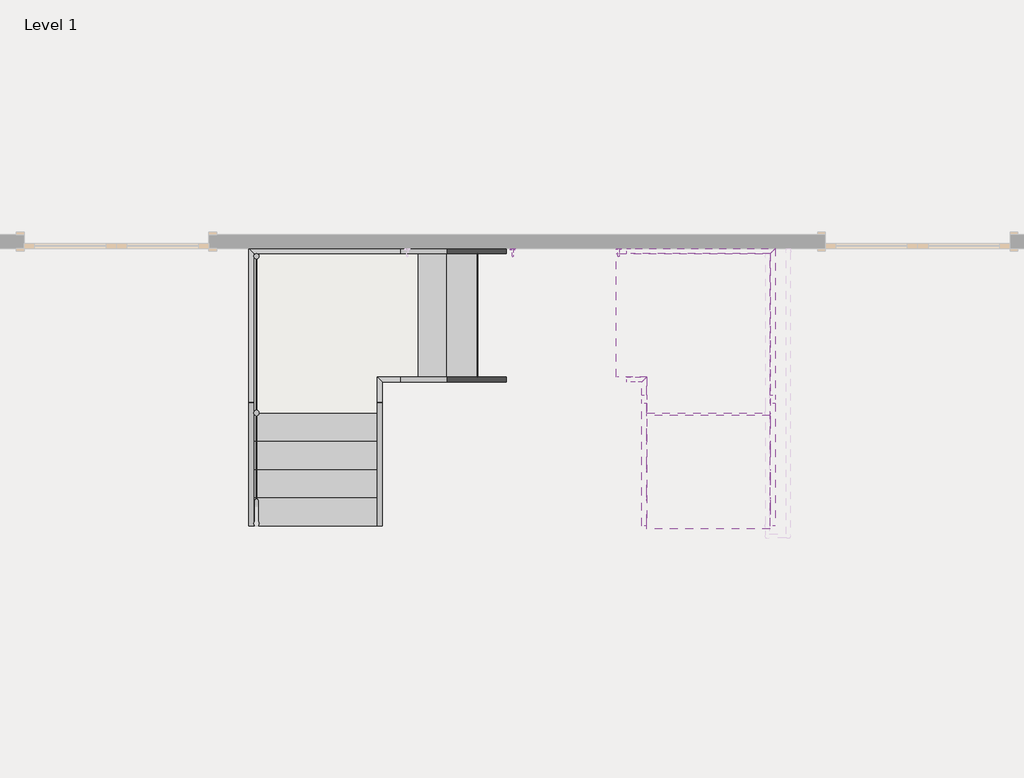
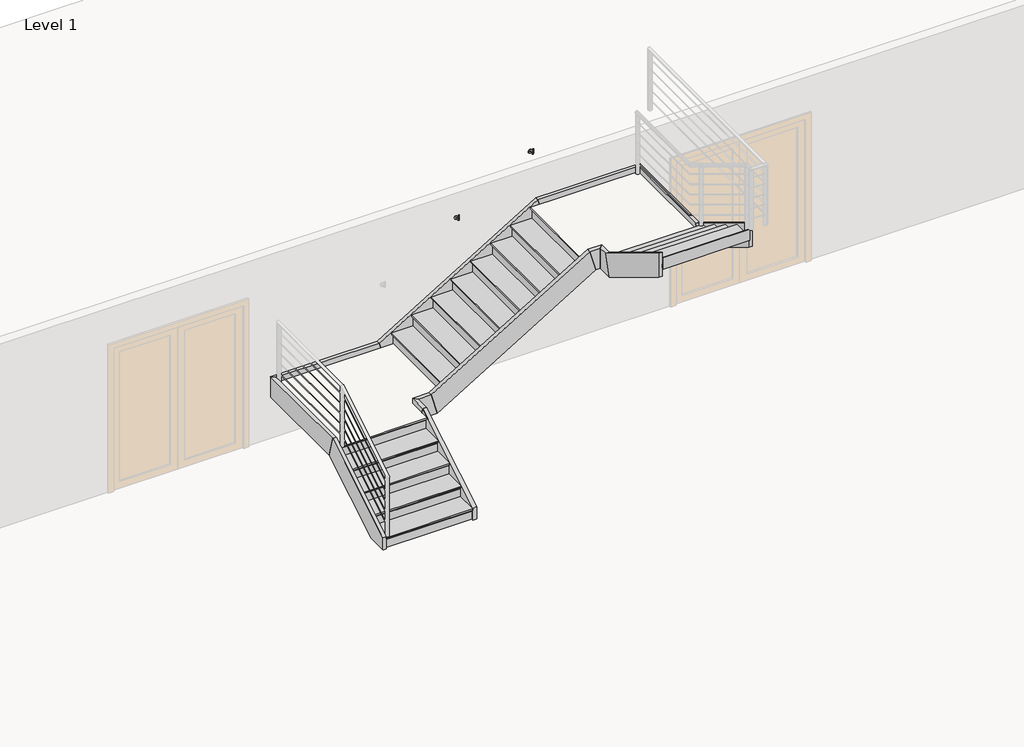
# One storey, part 7 of 7: 14 members, 3 stair flights, 2 proxies, 2 slabs.
"""IFC4 building model written with IfcOpenShell, lengths in millimetres."""

import ifcopenshell
import ifcopenshell.guid

model = None  # the IFC model being written
_history = None  # IfcOwnerHistory: only IFC2X3 demands one
_inside = {}  # id of a spatial element -> (the spatial element, [elements in it])
_under = {}  # id of a project, library or spatial element -> (it, [spatial elements below it])
_declared = {}  # id of a project -> (the project, [libraries it declares])
_typed = {}  # id of a type object -> (the type object, [elements of that type])
_made_of = {}  # id of a material, layer set ... -> (it, [elements and type objects made of it])


def new_model(schema):
    """Start an empty IFC model of exactly this schema.

    Asked for "IFC4X3", IfcOpenShell would pick the latest addendum, in which some entities
    have other attributes; the version numbers below select the first issue.
    IFC2X3 requires an IfcOwnerHistory on every rooted entity: one is made here for all.
    """
    global model, _history
    if schema == "IFC4X3":
        model = ifcopenshell.file(schema_version=(4, 3, 0, 0))
    else:
        model = ifcopenshell.file(schema=schema)
    _inside.clear()
    _under.clear()
    _declared.clear()
    _typed.clear()
    _made_of.clear()
    _history = None
    if model.schema == "IFC2X3":
        org = make("IfcOrganization", Name="unknown")
        user = make(
            "IfcPersonAndOrganization",
            ThePerson=make("IfcPerson", FamilyName="unknown"),
            TheOrganization=org,
        )
        app = make(
            "IfcApplication",
            ApplicationDeveloper=org,
            Version="unknown",
            ApplicationFullName="unknown",
            ApplicationIdentifier="unknown",
        )
        _history = make(
            "IfcOwnerHistory",
            OwningUser=user,
            OwningApplication=app,
            ChangeAction="ADDED",
            CreationDate=0,
        )
    return model


def make(cls, **values):
    """One entity of the class cls with the attributes given. An attribute that is None is left unset."""
    return model.create_entity(
        cls, **{name: value for name, value in values.items() if value is not None}
    )


def rooted(cls, **values):
    """An entity with a GlobalId (a new one), such as an element, a storey or a relation."""
    return make(cls, GlobalId=ifcopenshell.guid.new(), OwnerHistory=_history, **values)


def si_unit(unit_type, name, prefix=None):
    """IfcSIUnit, for example si_unit("LENGTHUNIT", "METRE", prefix="MILLI")."""
    return make("IfcSIUnit", UnitType=unit_type, Prefix=prefix, Name=name)


def assignment(units):
    """IfcUnitAssignment: the units of a project."""
    return None if units is None else make("IfcUnitAssignment", Units=units)


def point(xyz):
    """IfcCartesianPoint."""
    return None if xyz is None else make("IfcCartesianPoint", Coordinates=xyz)


def direction(xyz):
    """IfcDirection."""
    return None if xyz is None else make("IfcDirection", DirectionRatios=xyz)


def frame(location, z_axis=None, x_axis=None):
    """IfcAxis2Placement3D, a coordinate frame: its origin and axes. An axis left out is left unset."""
    return make(
        "IfcAxis2Placement3D",
        Location=point(location),
        Axis=direction(z_axis),
        RefDirection=direction(x_axis),
    )


def frame_2d(location, x_axis=None):
    """IfcAxis2Placement2D, a coordinate frame in the plane: its origin and x axis."""
    return make(
        "IfcAxis2Placement2D", Location=point(location), RefDirection=direction(x_axis)
    )


def origin():
    """The frame at (0, 0, 0) with its axes left unset."""
    return frame((0.0, 0.0, 0.0))


def origin_with_axes():
    """The frame at (0, 0, 0) with the z axis (0, 0, 1) and the x axis (1, 0, 0) written out."""
    return frame((0.0, 0.0, 0.0), z_axis=(0.0, 0.0, 1.0), x_axis=(1.0, 0.0, 0.0))


def place(relative_to, where):
    """IfcLocalPlacement: puts the frame where relative to a parent placement (None: the world)."""
    return make(
        "IfcLocalPlacement", PlacementRelTo=relative_to, RelativePlacement=where
    )


def context(
    kind, dimensions, precision=None, world=None, true_north=None, identifier=None
):
    """IfcGeometricRepresentationContext, for example the 3D "Model" context."""
    return make(
        "IfcGeometricRepresentationContext",
        ContextIdentifier=identifier,
        ContextType=kind,
        CoordinateSpaceDimension=dimensions,
        Precision=precision,
        WorldCoordinateSystem=world,
        TrueNorth=true_north,
    )


def project(units=None, contexts=None):
    """IfcProject with its units and contexts."""
    return rooted(
        "IfcProject",
        Name="project",
        RepresentationContexts=contexts,
        UnitsInContext=assignment(units),
    )


def spatial(cls, under=None, at=None, **own):
    """A site, building, storey or space (cls), placed at a placement, below another one or the project."""
    s = rooted(cls, ObjectPlacement=at, **own)
    if under is not None:
        _under.setdefault(under.id(), (under, []))[1].append(s)
    return s


def polyline(points):
    """IfcPolyline through the points."""
    return make("IfcPolyline", Points=[point(p) for p in points])


def circle_curve(where, radius):
    """IfcCircle in the frame where."""
    return make("IfcCircle", Position=where, Radius=radius)


def ellipse_curve(where, semi_axis1, semi_axis2):
    """IfcEllipse in the frame where."""
    return make(
        "IfcEllipse", Position=where, SemiAxis1=semi_axis1, SemiAxis2=semi_axis2
    )


def trimmed(basis, trim1, trim2, sense, master):
    """IfcTrimmedCurve: the piece of a basis curve between two trims."""
    return make(
        "IfcTrimmedCurve",
        BasisCurve=basis,
        Trim1=trim1,
        Trim2=trim2,
        SenseAgreement=sense,
        MasterRepresentation=master,
    )


def segment(curve, same_sense, transition):
    """IfcCompositeCurveSegment."""
    return make(
        "IfcCompositeCurveSegment",
        Transition=transition,
        SameSense=same_sense,
        ParentCurve=curve,
    )


def composite_curve(segments, self_intersect=None):
    """IfcCompositeCurve: segments joined end to end."""
    return make("IfcCompositeCurve", Segments=segments, SelfIntersect=self_intersect)


def outline(outer, holes=None, kind="AREA"):
    """IfcArbitraryClosedProfileDef: a profile drawn as a closed curve; with holes, ...WithVoids."""
    if holes is None:
        return make("IfcArbitraryClosedProfileDef", ProfileType=kind, OuterCurve=outer)
    return make(
        "IfcArbitraryProfileDefWithVoids",
        ProfileType=kind,
        OuterCurve=outer,
        InnerCurves=holes,
    )


def extrude(swept, where, along, depth):
    """IfcExtrudedAreaSolid: the profile swept, set in the frame where, extruded along a direction by depth."""
    return make(
        "IfcExtrudedAreaSolid",
        SweptArea=swept,
        Position=where,
        ExtrudedDirection=direction(along),
        Depth=depth,
    )


def faces_of(points, faces, orient=None, outer=None):
    """IfcFace entities. A face is a list of loops; a loop is a list of indices into points, from 0.

    orient and outer hold one flag for each loop. By default every Orientation is true, the
    first loop of a face is its IfcFaceOuterBound and the others are IfcFaceBound.
    """
    made = []
    for i, loops in enumerate(faces):
        bounds = []
        for j, loop in enumerate(loops):
            is_outer = j == 0 if outer is None else outer[i][j]
            bounds.append(
                make(
                    "IfcFaceOuterBound" if is_outer else "IfcFaceBound",
                    Bound=make("IfcPolyLoop", Polygon=[points[k] for k in loop]),
                    Orientation=True if orient is None else orient[i][j],
                )
            )
        made.append(make("IfcFace", Bounds=bounds))
    return made


def faceted_brep(points, faces, orient=None, outer=None, voids=None):
    """IfcFacetedBrep: a solid bounded by flat faces; with voids (closed shells), ...WithVoids."""
    shared = [point(p) for p in points]
    hull = make("IfcClosedShell", CfsFaces=faces_of(shared, faces, orient, outer))
    if voids is None:
        return make("IfcFacetedBrep", Outer=hull)
    return make(
        "IfcFacetedBrepWithVoids",
        Outer=hull,
        Voids=[
            make(cls, CfsFaces=faces_of(shared, fs, o, b)) for cls, fs, o, b in voids
        ],
    )


def shape(context_of_items, identifier, shape_type, items):
    """IfcShapeRepresentation: the items that make up one representation, for example the "Body"."""
    return make(
        "IfcShapeRepresentation",
        ContextOfItems=context_of_items,
        RepresentationIdentifier=identifier,
        RepresentationType=shape_type,
        Items=items,
    )


def source(mapping_origin, context_of_items, identifier, shape_type, items):
    """IfcRepresentationMap: a shape defined once, which mapped items show again and again."""
    return make(
        "IfcRepresentationMap",
        MappingOrigin=mapping_origin,
        MappedRepresentation=shape(context_of_items, identifier, shape_type, items),
    )


def transform(
    local_origin,
    x_axis=None,
    y_axis=None,
    z_axis=None,
    scale=None,
    scale2=None,
    scale3=None,
    uniform=True,
):
    """IfcCartesianTransformationOperator3D, or its non-uniform kind. x_axis, y_axis, z_axis: its Axis1, 2, 3."""
    if uniform:
        return make(
            "IfcCartesianTransformationOperator3D",
            Axis1=direction(x_axis),
            Axis2=direction(y_axis),
            LocalOrigin=point(local_origin),
            Scale=scale,
            Axis3=direction(z_axis),
        )
    return make(
        "IfcCartesianTransformationOperator3DnonUniform",
        Axis1=direction(x_axis),
        Axis2=direction(y_axis),
        LocalOrigin=point(local_origin),
        Scale=scale,
        Axis3=direction(z_axis),
        Scale2=scale2,
        Scale3=scale3,
    )


def mapped(mapping_source, mapping_target):
    """IfcMappedItem: shows the shape of a source again, moved by a transform."""
    return make(
        "IfcMappedItem", MappingSource=mapping_source, MappingTarget=mapping_target
    )


def made_of(thing, what):
    """Note that an element or type object is made of a material, layer set ...; save() writes the relation."""
    if what is not None:
        _made_of.setdefault(what.id(), (what, []))[1].append(thing)
    return thing


def element(
    cls,
    number,
    at=None,
    inside=None,
    cuts=None,
    type_object=None,
    material=None,
    context=None,
    identifier="Body",
    shape_type=None,
    held_by="IfcProductDefinitionShape",
    body=None,
    shapes=None,
    **own,
):
    """One element of the class cls, such as IfcWall. Its Tag is "e" and its number.

    at: its placement. inside: the storey or other place that contains it. cuts: it is an
    opening in that element (IfcRelVoidsElement). A single representation is given by context,
    identifier, shape_type and body (its items); several are given by shapes. held_by: the class
    of the entity that holds the representations. save() writes the other relations.
    """
    e = rooted(cls, Tag="e%d" % number, ObjectPlacement=at, **own)
    if body is not None:
        shapes = [shape(context, identifier, shape_type, body)]
    if shapes is not None:
        e.Representation = make(held_by, Representations=shapes)
    if inside is not None:
        _inside.setdefault(inside.id(), (inside, []))[1].append(e)
    if cuts is not None:
        rooted(
            "IfcRelVoidsElement", RelatingBuildingElement=cuts, RelatedOpeningElement=e
        )
    if type_object is not None:
        _typed.setdefault(type_object.id(), (type_object, []))[1].append(e)
    return made_of(e, material)


def aggregate(whole, parts):
    """IfcRelAggregates: a whole, such as a stair, and the parts it consists of."""
    return rooted("IfcRelAggregates", RelatingObject=whole, RelatedObjects=parts)


def save(model, path):
    """Write the relations noted so far, then the file.

    IfcRelAggregates (storeys below a building ...), IfcRelContainedInSpatialStructure (elements
    in a storey), IfcRelDefinesByType, IfcRelAssociatesMaterial and IfcRelDeclares: one each for
    every whole, place, type object, material and project.
    """
    for whole, parts in _under.values():
        aggregate(whole, parts)
    for where, things in _inside.values():
        rooted(
            "IfcRelContainedInSpatialStructure",
            RelatedElements=things,
            RelatingStructure=where,
        )
    for kind, things in _typed.values():
        rooted("IfcRelDefinesByType", RelatedObjects=things, RelatingType=kind)
    for what, things in _made_of.values():
        rooted("IfcRelAssociatesMaterial", RelatedObjects=things, RelatingMaterial=what)
    for by, libraries in _declared.values():
        rooted("IfcRelDeclares", RelatingContext=by, RelatedDefinitions=libraries)
    model.write(path)


def plane_surface(at):
    """IfcPlane: the flat surface through the origin of the frame at, square to its z axis."""
    return make("IfcPlane", Position=at)


def cylinder_surface(at, radius):
    """IfcCylindricalSurface: all points at the distance radius from the z axis of the frame at."""
    return make("IfcCylindricalSurface", Position=at, Radius=radius)


def revolved_surface(curve, axis_point, axis_direction):
    """IfcSurfaceOfRevolution: the curve turned about the line through axis_point along axis_direction."""
    return make(
        "IfcSurfaceOfRevolution",
        SweptCurve=make("IfcArbitraryOpenProfileDef", ProfileType="CURVE", Curve=curve),
        AxisPosition=make("IfcAxis1Placement", Location=point(axis_point), Axis=direction(axis_direction)),
    )


def advanced_brep(points, edges, surfaces, faces):
    """IfcAdvancedBrep: a solid bounded by faces that lie on surfaces and meet in shared edges.

    An edge is (start, end): straight between two places in points (the first is 0);
    or (start, end, curve); or (start, end, curve, False) where it runs against its curve.
    A face is (place in surfaces, loops), or (place, loops, False) where it looks against
    its surface's normal. A loop lists edges by number (the first is 1), with a minus sign
    where the edge is run from its end to its start. The first loop is the outer one.
    """
    corners = [point(p) for p in points]
    vertices = [make("IfcVertexPoint", VertexGeometry=c) for c in corners]
    made = []
    for start, end, *more in edges:
        made.append(
            make(
                "IfcEdgeCurve",
                EdgeStart=vertices[start],
                EdgeEnd=vertices[end],
                EdgeGeometry=more[0] if more else make("IfcPolyline", Points=[corners[start], corners[end]]),
                SameSense=more[1] if len(more) > 1 else True,
            )
        )
    hull = []
    for where, loops, *sense in faces:
        bounds = []
        for j, loop in enumerate(loops):
            ring = [make("IfcOrientedEdge", EdgeElement=made[abs(k) - 1], Orientation=k > 0) for k in loop]
            bounds.append(
                make(
                    "IfcFaceOuterBound" if j == 0 else "IfcFaceBound",
                    Bound=make("IfcEdgeLoop", EdgeList=ring),
                    Orientation=True,
                )
            )
        hull.append(make("IfcAdvancedFace", Bounds=bounds, FaceSurface=surfaces[where], SameSense=sense[0] if sense else True))
    return make("IfcAdvancedBrep", Outer=make("IfcClosedShell", CfsFaces=hull))


def support_metal_circular_support_metal_circular_6fb01533(model_context):
    return source(origin(), model_context, "Body", "SolidModel", [
        advanced_brep(
        [(0.0, 63.5, -69.85), (0.0, 63.5, -82.55), (0.0, 12.7, -69.85), (0.0, 12.7, -82.55), (0.0, -6.35, -63.5), (0.0, 6.35, -63.5), (0.0, 6.35, 0.0), (0.0, -6.35, 0.0)],
        [
            (0, 1, circle_curve(frame((0.0, 63.5, -76.2), z_axis=(0.0, 1.0, 0.0), x_axis=(0.0, 0.0, -1.0)), 6.35)),
            (1, 0, circle_curve(frame((0.0, 63.5, -76.2), z_axis=(0.0, 1.0, 0.0), x_axis=(0.0, 0.0, -1.0)), 6.35)),
            (0, 2),
            (2, 3, circle_curve(frame((0.0, 12.7, -76.2), z_axis=(0.0, 1.0, 0.0), x_axis=(0.0, 0.0, -1.0)), 6.35)),
            (3, 1),
            (3, 2, circle_curve(frame((0.0, 12.7, -76.2), z_axis=(0.0, 1.0, 0.0), x_axis=(0.0, 0.0, -1.0)), 6.35)),
            (4, 3, circle_curve(frame((0.0, 12.7, -63.5), z_axis=(1.0, 0.0, 0.0), x_axis=(0.0, 0.0, -1.0)), 19.05)),
            (2, 5, circle_curve(frame((0.0, 12.7, -63.5), z_axis=(-1.0, 0.0, 0.0), x_axis=(0.0, 0.0, -1.0)), 6.35)),
            (5, 4, circle_curve(frame((0.0, 0.0, -63.5), z_axis=(0.0, 0.0, -1.0), x_axis=(0.0, -1.0, 0.0)), 6.35)),
            (4, 5, circle_curve(frame((0.0, 0.0, -63.5), z_axis=(0.0, 0.0, -1.0), x_axis=(0.0, -1.0, 0.0)), 6.35)),
            (6, 7, circle_curve(frame((0.0, 0.0, 0.0), z_axis=(0.0, 0.0, 1.0), x_axis=(0.0, -1.0, 0.0)), 6.35)),
            (7, 6, circle_curve(frame((0.0, 0.0, 0.0), z_axis=(0.0, 0.0, 1.0), x_axis=(0.0, -1.0, 0.0)), 6.35)),
            (5, 6),
            (7, 4),
        ],
        [
            plane_surface(frame((0.0, 63.5, -76.2), z_axis=(0.0, 1.0, 0.0), x_axis=(1.0, 0.0, 0.0))),
            cylinder_surface(frame((0.0, 63.5, -76.2), z_axis=(0.0, 1.0, 0.0), x_axis=(0.0, 0.0, -1.0)), 6.35),
            revolved_surface(trimmed(ellipse_curve(frame((0.0, 12.7, -76.2), z_axis=(0.0, 1.0, 0.0), x_axis=(0.0, 0.0, -1.0)), 6.35, 6.35), [point((0.0, 12.7, -69.85))], [point((0.0, 12.7, -82.55))], True, "CARTESIAN"), (0.0, 12.7, -63.5), (-1.0, 0.0, 0.0)),
            revolved_surface(trimmed(ellipse_curve(frame((0.0, 12.7, -76.2), z_axis=(0.0, 1.0, 0.0), x_axis=(0.0, 0.0, -1.0)), 6.35, 6.35), [point((0.0, 12.7, -82.55))], [point((0.0, 12.7, -69.85))], True, "CARTESIAN"), (0.0, 12.7, -63.5), (-1.0, 0.0, 0.0)),
            plane_surface(origin_with_axes()),
            cylinder_surface(frame((0.0, 0.0, -63.5), z_axis=(0.0, 0.0, -1.0), x_axis=(0.0, -1.0, 0.0)), 6.35),
        ],
        [
            (0, [[1, 2]]),
            (1, [[-1, 3, 4, 5]]),
            (1, [[-2, -5, 6, -3]]),
            (2, [[7, -4, 8, 9]]),
            (3, [[-8, -6, -7, 10]]),
            (4, [[11, 12]]),
            (5, [[-9, 13, -12, 14]]),
            (5, [[-10, -14, -11, -13]]),
        ],
    ),
        extrude(outline(composite_curve([segment(trimmed(circle_curve(frame_2d((-76.2, 0.0)), 25.4), [point((-76.2, -25.4))], [point((-76.2, 25.4))], False, "CARTESIAN"), True, "CONTINUOUS"), segment(trimmed(circle_curve(frame_2d((-76.2, 0.0)), 25.4), [point((-76.2, 25.4))], [point((-76.2, -25.4))], False, "CARTESIAN"), True, "CONTINUOUS")], self_intersect=False)), frame((0.0, 63.5, 0.0), z_axis=(0.0, 1.0, 0.0), x_axis=(0.0, 0.0, 1.0)), (0.0, 0.0, 1.0), 12.7),
    ])


def non_monolithic_landing_b97fd22c(model_context):
    return source(origin(), model_context, "Body", "Brep", [
        faceted_brep([(-4473.217382, 4914.1483604, 827.6166667), (-4473.217382, 4914.1483604, 846.6666667), (-5692.417382, 4914.1483604, 846.6666667), (-5692.417382, 4914.1483604, 827.6166667), (-4473.217382, 4939.5483604, 802.2166667), (-5692.417382, 4939.5483604, 802.2166667), (-4473.217382, 5269.7483604, 846.6666667), (-4066.817382, 5269.7483604, 846.6666667), (-4041.417382, 5269.7483604, 846.6666667), (-4041.417382, 6488.9483604, 846.6666667), (-4066.817382, 6488.9483604, 846.6666667), (-5692.417382, 6488.9483604, 846.6666667), (-4473.217382, 4939.5483604, 795.8666667), (-5692.417382, 4939.5483604, 795.8666667), (-5692.417382, 6488.9483604, 795.8666667), (-4066.817382, 6488.9483604, 795.8666667), (-4041.417382, 6488.9483604, 795.8666667), (-4041.417382, 5269.7483604, 795.8666667), (-4066.817382, 5269.7483604, 795.8666667), (-4473.217382, 5269.7483604, 795.8666667)], [[[0, 1, 2, 3]], [[4, 0, 3, 5]], [[6, 7, 8, 9, 10, 11, 2, 1]], [[12, 13, 14, 15, 16, 17, 18, 19]], [[13, 12, 4, 5]], [[6, 1, 0, 4, 12, 19]], [[7, 6, 19, 18]], [[8, 7, 18, 17]], [[9, 8, 17, 16]], [[10, 9, 16, 15]], [[11, 10, 15, 14]], [[2, 11, 14, 13, 5, 3]]]),
    ])


def non_monolithic_landing_d9560d72(model_context):
    return source(origin(), model_context, "Body", "Brep", [
        faceted_brep([(-2111.017382, 5269.7483604, 2182.2833333), (-2111.017382, 5269.7483604, 2201.3333333), (-2111.017382, 6488.9483604, 2201.3333333), (-2111.017382, 6488.9483604, 2182.2833333), (-2085.617382, 5269.7483604, 2156.8833333), (-2085.617382, 6488.9483604, 2156.8833333), (-1806.217382, 5269.7483604, 2201.3333333), (-1806.217382, 4914.1483604, 2201.3333333), (-1806.217382, 4888.7483604, 2201.3333333), (-587.017382, 4888.7483604, 2201.3333333), (-587.017382, 4914.1483604, 2201.3333333), (-587.017382, 6488.9483604, 2201.3333333), (-2085.617382, 5269.7483604, 2150.5333333), (-2085.617382, 6488.9483604, 2150.5333333), (-587.017382, 6488.9483604, 2150.5333333), (-587.017382, 4914.1483604, 2150.5333333), (-587.017382, 4888.7483604, 2150.5333333), (-1806.217382, 4888.7483604, 2150.5333333), (-1806.217382, 4914.1483604, 2150.5333333), (-1806.217382, 5269.7483604, 2150.5333333)], [[[0, 1, 2, 3]], [[4, 0, 3, 5]], [[6, 7, 8, 9, 10, 11, 2, 1]], [[12, 13, 14, 15, 16, 17, 18, 19]], [[13, 12, 4, 5]], [[6, 1, 0, 4, 12, 19]], [[7, 6, 19, 18]], [[8, 7, 18, 17]], [[9, 8, 17, 16]], [[10, 9, 16, 15]], [[11, 10, 15, 14]], [[2, 11, 14, 13, 5, 3]]]),
    ])


def stair_flight_a050f997(model_context):
    return source(origin(), model_context, "Body", "Brep", [
        faceted_brep([(-4473.217382, 3796.5483604, 150.2833333), (-4473.217382, 3796.5483604, 169.3333333), (-5692.417382, 3796.5483604, 169.3333333), (-5692.417382, 3796.5483604, 150.2833333), (-4473.217382, 3821.9483604, 124.8833333), (-5692.417382, 3821.9483604, 124.8833333), (-4473.217382, 4101.3483604, 169.3333333), (-5692.417382, 4101.3483604, 169.3333333), (-5692.417382, 3821.9483604, 118.5333333), (-5692.417382, 4101.3483604, 118.5333333), (-4473.217382, 4101.3483604, 118.5333333), (-4473.217382, 3821.9483604, 118.5333333)], [[[0, 1, 2, 3]], [[4, 0, 3, 5]], [[2, 1, 6, 7]], [[8, 9, 10, 11]], [[2, 7, 9, 8, 5, 3]], [[8, 11, 4, 5]], [[6, 1, 0, 4, 11, 10]], [[7, 6, 10, 9]]]),
        faceted_brep([(-4473.217382, 3821.9483604, 118.5333333), (-4473.217382, 3821.9483604, 0.0), (-4473.217382, 3828.2983604, 0.0), (-4473.217382, 3828.2983604, 118.5333333), (-5692.417382, 3821.9483604, 118.5333333), (-5692.417382, 3828.2983604, 118.5333333), (-5692.417382, 3828.2983604, 0.0), (-5692.417382, 3821.9483604, 0.0)], [[[0, 1, 2, 3]], [[4, 5, 6, 7]], [[1, 0, 4, 7]], [[2, 1, 7, 6]], [[3, 2, 6, 5]], [[0, 3, 5, 4]]]),
        faceted_brep([(-4473.217382, 4101.3483604, 287.8666667), (-4473.217382, 4101.3483604, 118.5333333), (-4473.217382, 4107.6983604, 118.5333333), (-4473.217382, 4107.6983604, 287.8666667), (-5692.417382, 4101.3483604, 287.8666667), (-5692.417382, 4107.6983604, 287.8666667), (-5692.417382, 4107.6983604, 118.5333333), (-5692.417382, 4101.3483604, 118.5333333)], [[[0, 1, 2, 3]], [[4, 5, 6, 7]], [[1, 0, 4, 7]], [[2, 1, 7, 6]], [[3, 2, 6, 5]], [[0, 3, 5, 4]]]),
        faceted_brep([(-5692.417382, 4075.9483604, 338.6666667), (-4473.217382, 4075.9483604, 338.6666667), (-4473.217382, 4380.7483604, 338.6666667), (-5692.417382, 4380.7483604, 338.6666667), (-5692.417382, 4101.3483604, 287.8666667), (-5692.417382, 4380.7483604, 287.8666667), (-4473.217382, 4380.7483604, 287.8666667), (-4473.217382, 4101.3483604, 287.8666667), (-5692.417382, 4101.3483604, 294.2166667), (-5692.417382, 4075.9483604, 319.6166667), (-4473.217382, 4101.3483604, 294.2166667), (-4473.217382, 4075.9483604, 319.6166667)], [[[0, 1, 2, 3]], [[4, 5, 6, 7]], [[0, 3, 5, 4, 8, 9]], [[4, 7, 10, 8]], [[2, 1, 11, 10, 7, 6]], [[3, 2, 6, 5]], [[11, 1, 0, 9]], [[10, 11, 9, 8]]]),
        faceted_brep([(-4473.217382, 4380.7483604, 457.2), (-4473.217382, 4380.7483604, 287.8666667), (-4473.217382, 4387.0983604, 287.8666667), (-4473.217382, 4387.0983604, 457.2), (-5692.417382, 4380.7483604, 457.2), (-5692.417382, 4387.0983604, 457.2), (-5692.417382, 4387.0983604, 287.8666667), (-5692.417382, 4380.7483604, 287.8666667)], [[[0, 1, 2, 3]], [[4, 5, 6, 7]], [[1, 0, 4, 7]], [[2, 1, 7, 6]], [[3, 2, 6, 5]], [[0, 3, 5, 4]]]),
        faceted_brep([(-5692.417382, 4355.3483604, 508.0), (-4473.217382, 4355.3483604, 508.0), (-4473.217382, 4660.1483604, 508.0), (-5692.417382, 4660.1483604, 508.0), (-5692.417382, 4380.7483604, 457.2), (-5692.417382, 4660.1483604, 457.2), (-4473.217382, 4660.1483604, 457.2), (-4473.217382, 4380.7483604, 457.2), (-5692.417382, 4380.7483604, 463.55), (-5692.417382, 4355.3483604, 488.95), (-4473.217382, 4380.7483604, 463.55), (-4473.217382, 4355.3483604, 488.95)], [[[0, 1, 2, 3]], [[4, 5, 6, 7]], [[0, 3, 5, 4, 8, 9]], [[4, 7, 10, 8]], [[2, 1, 11, 10, 7, 6]], [[3, 2, 6, 5]], [[11, 1, 0, 9]], [[10, 11, 9, 8]]]),
        faceted_brep([(-4473.217382, 4939.5483604, 795.8666667), (-4473.217382, 4939.5483604, 626.5333333), (-4473.217382, 4945.8983604, 626.5333333), (-4473.217382, 4945.8983604, 795.8666667), (-5692.417382, 4939.5483604, 795.8666667), (-5692.417382, 4945.8983604, 795.8666667), (-5692.417382, 4945.8983604, 626.5333333), (-5692.417382, 4939.5483604, 626.5333333)], [[[0, 1, 2, 3]], [[4, 5, 6, 7]], [[1, 0, 4, 7]], [[2, 1, 7, 6]], [[3, 2, 6, 5]], [[0, 3, 5, 4]]]),
        faceted_brep([(-4473.217382, 4660.1483604, 626.5333333), (-4473.217382, 4660.1483604, 457.2), (-4473.217382, 4666.4983604, 457.2), (-4473.217382, 4666.4983604, 626.5333333), (-5692.417382, 4660.1483604, 626.5333333), (-5692.417382, 4666.4983604, 626.5333333), (-5692.417382, 4666.4983604, 457.2), (-5692.417382, 4660.1483604, 457.2)], [[[0, 1, 2, 3]], [[4, 5, 6, 7]], [[1, 0, 4, 7]], [[2, 1, 7, 6]], [[3, 2, 6, 5]], [[0, 3, 5, 4]]]),
        faceted_brep([(-5692.417382, 4939.5483604, 677.3333333), (-5692.417382, 4914.1483604, 677.3333333), (-5692.417382, 4634.7483604, 677.3333333), (-4473.217382, 4634.7483604, 677.3333333), (-4473.217382, 4914.1483604, 677.3333333), (-4473.217382, 4939.5483604, 677.3333333), (-5692.417382, 4914.1483604, 626.5333333), (-5692.417382, 4939.5483604, 626.5333333), (-4473.217382, 4939.5483604, 626.5333333), (-4473.217382, 4914.1483604, 626.5333333), (-4473.217382, 4660.1483604, 626.5333333), (-5692.417382, 4660.1483604, 626.5333333), (-5692.417382, 4660.1483604, 632.8833333), (-5692.417382, 4634.7483604, 658.2833333), (-4473.217382, 4660.1483604, 632.8833333), (-4473.217382, 4634.7483604, 658.2833333)], [[[0, 1, 2, 3, 4, 5]], [[6, 7, 8, 9, 10, 11]], [[1, 0, 7, 6]], [[2, 1, 6, 11, 12, 13]], [[11, 10, 14, 12]], [[4, 3, 15, 14, 10, 9]], [[5, 4, 9, 8]], [[0, 5, 8, 7]], [[15, 3, 2, 13]], [[14, 15, 13, 12]]]),
    ])


def stair_flight_7657f764(model_context):
    return source(origin(), model_context, "Body", "Brep", [
        faceted_brep([(-4066.817382, 5269.7483604, 996.95), (-4066.817382, 5269.7483604, 1016.0), (-4066.817382, 6488.9483604, 1016.0), (-4066.817382, 6488.9483604, 996.95), (-4041.417382, 5269.7483604, 971.55), (-4041.417382, 6488.9483604, 971.55), (-3762.017382, 5269.7483604, 1016.0), (-3762.017382, 6488.9483604, 1016.0), (-4041.417382, 6488.9483604, 965.2), (-3762.017382, 6488.9483604, 965.2), (-3762.017382, 5269.7483604, 965.2), (-4041.417382, 5269.7483604, 965.2)], [[[0, 1, 2, 3]], [[4, 0, 3, 5]], [[2, 1, 6, 7]], [[8, 9, 10, 11]], [[2, 7, 9, 8, 5, 3]], [[8, 11, 4, 5]], [[6, 1, 0, 4, 11, 10]], [[7, 6, 10, 9]]]),
        faceted_brep([(-4041.417382, 5269.7483604, 965.2), (-4041.417382, 5269.7483604, 795.8666667), (-4035.067382, 5269.7483604, 795.8666667), (-4035.067382, 5269.7483604, 965.2), (-4041.417382, 6488.9483604, 965.2), (-4035.067382, 6488.9483604, 965.2), (-4035.067382, 6488.9483604, 795.8666667), (-4041.417382, 6488.9483604, 795.8666667)], [[[0, 1, 2, 3]], [[4, 5, 6, 7]], [[1, 0, 4, 7]], [[2, 1, 7, 6]], [[3, 2, 6, 5]], [[0, 3, 5, 4]]]),
        faceted_brep([(-3762.017382, 5269.7483604, 1134.5333333), (-3762.017382, 5269.7483604, 965.2), (-3755.667382, 5269.7483604, 965.2), (-3755.667382, 5269.7483604, 1134.5333333), (-3762.017382, 6488.9483604, 1134.5333333), (-3755.667382, 6488.9483604, 1134.5333333), (-3755.667382, 6488.9483604, 965.2), (-3762.017382, 6488.9483604, 965.2)], [[[0, 1, 2, 3]], [[4, 5, 6, 7]], [[1, 0, 4, 7]], [[2, 1, 7, 6]], [[3, 2, 6, 5]], [[0, 3, 5, 4]]]),
        faceted_brep([(-3787.417382, 6488.9483604, 1185.3333333), (-3787.417382, 5269.7483604, 1185.3333333), (-3482.617382, 5269.7483604, 1185.3333333), (-3482.617382, 6488.9483604, 1185.3333333), (-3762.017382, 6488.9483604, 1134.5333333), (-3482.617382, 6488.9483604, 1134.5333333), (-3482.617382, 5269.7483604, 1134.5333333), (-3762.017382, 5269.7483604, 1134.5333333), (-3762.017382, 6488.9483604, 1140.8833333), (-3787.417382, 6488.9483604, 1166.2833333), (-3762.017382, 5269.7483604, 1140.8833333), (-3787.417382, 5269.7483604, 1166.2833333)], [[[0, 1, 2, 3]], [[4, 5, 6, 7]], [[0, 3, 5, 4, 8, 9]], [[4, 7, 10, 8]], [[2, 1, 11, 10, 7, 6]], [[3, 2, 6, 5]], [[11, 1, 0, 9]], [[10, 11, 9, 8]]]),
        faceted_brep([(-3482.617382, 5269.7483604, 1303.8666667), (-3482.617382, 5269.7483604, 1134.5333333), (-3476.267382, 5269.7483604, 1134.5333333), (-3476.267382, 5269.7483604, 1303.8666667), (-3482.617382, 6488.9483604, 1303.8666667), (-3476.267382, 6488.9483604, 1303.8666667), (-3476.267382, 6488.9483604, 1134.5333333), (-3482.617382, 6488.9483604, 1134.5333333)], [[[0, 1, 2, 3]], [[4, 5, 6, 7]], [[1, 0, 4, 7]], [[2, 1, 7, 6]], [[3, 2, 6, 5]], [[0, 3, 5, 4]]]),
        faceted_brep([(-3508.017382, 6488.9483604, 1354.6666667), (-3508.017382, 5269.7483604, 1354.6666667), (-3203.217382, 5269.7483604, 1354.6666667), (-3203.217382, 6488.9483604, 1354.6666667), (-3482.617382, 6488.9483604, 1303.8666667), (-3203.217382, 6488.9483604, 1303.8666667), (-3203.217382, 5269.7483604, 1303.8666667), (-3482.617382, 5269.7483604, 1303.8666667), (-3482.617382, 6488.9483604, 1310.2166667), (-3508.017382, 6488.9483604, 1335.6166667), (-3482.617382, 5269.7483604, 1310.2166667), (-3508.017382, 5269.7483604, 1335.6166667)], [[[0, 1, 2, 3]], [[4, 5, 6, 7]], [[0, 3, 5, 4, 8, 9]], [[4, 7, 10, 8]], [[2, 1, 11, 10, 7, 6]], [[3, 2, 6, 5]], [[11, 1, 0, 9]], [[10, 11, 9, 8]]]),
        faceted_brep([(-3203.217382, 5269.7483604, 1473.2), (-3203.217382, 5269.7483604, 1303.8666667), (-3196.867382, 5269.7483604, 1303.8666667), (-3196.867382, 5269.7483604, 1473.2), (-3203.217382, 6488.9483604, 1473.2), (-3196.867382, 6488.9483604, 1473.2), (-3196.867382, 6488.9483604, 1303.8666667), (-3203.217382, 6488.9483604, 1303.8666667)], [[[0, 1, 2, 3]], [[4, 5, 6, 7]], [[1, 0, 4, 7]], [[2, 1, 7, 6]], [[3, 2, 6, 5]], [[0, 3, 5, 4]]]),
        faceted_brep([(-3228.617382, 6488.9483604, 1524.0), (-3228.617382, 5269.7483604, 1524.0), (-2923.817382, 5269.7483604, 1524.0), (-2923.817382, 6488.9483604, 1524.0), (-3203.217382, 6488.9483604, 1473.2), (-2923.817382, 6488.9483604, 1473.2), (-2923.817382, 5269.7483604, 1473.2), (-3203.217382, 5269.7483604, 1473.2), (-3203.217382, 6488.9483604, 1479.55), (-3228.617382, 6488.9483604, 1504.95), (-3203.217382, 5269.7483604, 1479.55), (-3228.617382, 5269.7483604, 1504.95)], [[[0, 1, 2, 3]], [[4, 5, 6, 7]], [[0, 3, 5, 4, 8, 9]], [[4, 7, 10, 8]], [[2, 1, 11, 10, 7, 6]], [[3, 2, 6, 5]], [[11, 1, 0, 9]], [[10, 11, 9, 8]]]),
        faceted_brep([(-2923.817382, 5269.7483604, 1642.5333333), (-2923.817382, 5269.7483604, 1473.2), (-2917.467382, 5269.7483604, 1473.2), (-2917.467382, 5269.7483604, 1642.5333333), (-2923.817382, 6488.9483604, 1642.5333333), (-2917.467382, 6488.9483604, 1642.5333333), (-2917.467382, 6488.9483604, 1473.2), (-2923.817382, 6488.9483604, 1473.2)], [[[0, 1, 2, 3]], [[4, 5, 6, 7]], [[1, 0, 4, 7]], [[2, 1, 7, 6]], [[3, 2, 6, 5]], [[0, 3, 5, 4]]]),
        faceted_brep([(-2949.217382, 6488.9483604, 1693.3333333), (-2949.217382, 5269.7483604, 1693.3333333), (-2644.417382, 5269.7483604, 1693.3333333), (-2644.417382, 6488.9483604, 1693.3333333), (-2923.817382, 6488.9483604, 1642.5333333), (-2644.417382, 6488.9483604, 1642.5333333), (-2644.417382, 5269.7483604, 1642.5333333), (-2923.817382, 5269.7483604, 1642.5333333), (-2923.817382, 6488.9483604, 1648.8833333), (-2949.217382, 6488.9483604, 1674.2833333), (-2923.817382, 5269.7483604, 1648.8833333), (-2949.217382, 5269.7483604, 1674.2833333)], [[[0, 1, 2, 3]], [[4, 5, 6, 7]], [[0, 3, 5, 4, 8, 9]], [[4, 7, 10, 8]], [[2, 1, 11, 10, 7, 6]], [[3, 2, 6, 5]], [[11, 1, 0, 9]], [[10, 11, 9, 8]]]),
        faceted_brep([(-2644.417382, 5269.7483604, 1811.8666667), (-2644.417382, 5269.7483604, 1642.5333333), (-2638.067382, 5269.7483604, 1642.5333333), (-2638.067382, 5269.7483604, 1811.8666667), (-2644.417382, 6488.9483604, 1811.8666667), (-2638.067382, 6488.9483604, 1811.8666667), (-2638.067382, 6488.9483604, 1642.5333333), (-2644.417382, 6488.9483604, 1642.5333333)], [[[0, 1, 2, 3]], [[4, 5, 6, 7]], [[1, 0, 4, 7]], [[2, 1, 7, 6]], [[3, 2, 6, 5]], [[0, 3, 5, 4]]]),
        faceted_brep([(-2669.817382, 6488.9483604, 1862.6666667), (-2669.817382, 5269.7483604, 1862.6666667), (-2365.017382, 5269.7483604, 1862.6666667), (-2365.017382, 6488.9483604, 1862.6666667), (-2644.417382, 6488.9483604, 1811.8666667), (-2365.017382, 6488.9483604, 1811.8666667), (-2365.017382, 5269.7483604, 1811.8666667), (-2644.417382, 5269.7483604, 1811.8666667), (-2644.417382, 6488.9483604, 1818.2166667), (-2669.817382, 6488.9483604, 1843.6166667), (-2644.417382, 5269.7483604, 1818.2166667), (-2669.817382, 5269.7483604, 1843.6166667)], [[[0, 1, 2, 3]], [[4, 5, 6, 7]], [[0, 3, 5, 4, 8, 9]], [[4, 7, 10, 8]], [[2, 1, 11, 10, 7, 6]], [[3, 2, 6, 5]], [[11, 1, 0, 9]], [[10, 11, 9, 8]]]),
        faceted_brep([(-2085.617382, 5269.7483604, 2150.5333333), (-2085.617382, 5269.7483604, 1981.2), (-2079.267382, 5269.7483604, 1981.2), (-2079.267382, 5269.7483604, 2150.5333333), (-2085.617382, 6488.9483604, 2150.5333333), (-2079.267382, 6488.9483604, 2150.5333333), (-2079.267382, 6488.9483604, 1981.2), (-2085.617382, 6488.9483604, 1981.2)], [[[0, 1, 2, 3]], [[4, 5, 6, 7]], [[1, 0, 4, 7]], [[2, 1, 7, 6]], [[3, 2, 6, 5]], [[0, 3, 5, 4]]]),
        faceted_brep([(-2365.017382, 5269.7483604, 1981.2), (-2365.017382, 5269.7483604, 1811.8666667), (-2358.667382, 5269.7483604, 1811.8666667), (-2358.667382, 5269.7483604, 1981.2), (-2365.017382, 6488.9483604, 1981.2), (-2358.667382, 6488.9483604, 1981.2), (-2358.667382, 6488.9483604, 1811.8666667), (-2365.017382, 6488.9483604, 1811.8666667)], [[[0, 1, 2, 3]], [[4, 5, 6, 7]], [[1, 0, 4, 7]], [[2, 1, 7, 6]], [[3, 2, 6, 5]], [[0, 3, 5, 4]]]),
        faceted_brep([(-2085.617382, 6488.9483604, 2032.0), (-2111.017382, 6488.9483604, 2032.0), (-2390.417382, 6488.9483604, 2032.0), (-2390.417382, 5269.7483604, 2032.0), (-2111.017382, 5269.7483604, 2032.0), (-2085.617382, 5269.7483604, 2032.0), (-2111.017382, 6488.9483604, 1981.2), (-2085.617382, 6488.9483604, 1981.2), (-2085.617382, 5269.7483604, 1981.2), (-2111.017382, 5269.7483604, 1981.2), (-2365.017382, 5269.7483604, 1981.2), (-2365.017382, 6488.9483604, 1981.2), (-2365.017382, 6488.9483604, 1987.55), (-2390.417382, 6488.9483604, 2012.95), (-2365.017382, 5269.7483604, 1987.55), (-2390.417382, 5269.7483604, 2012.95)], [[[0, 1, 2, 3, 4, 5]], [[6, 7, 8, 9, 10, 11]], [[1, 0, 7, 6]], [[2, 1, 6, 11, 12, 13]], [[11, 10, 14, 12]], [[4, 3, 15, 14, 10, 9]], [[5, 4, 9, 8]], [[0, 5, 8, 7]], [[15, 3, 2, 13]], [[14, 15, 13, 12]]]),
    ])


def stair_flight_49d914ed(model_context):
    return source(origin(), model_context, "Body", "SweptSolid", [
        extrude(outline(polyline([(4609.3483604, 2370.6666667), (4914.1483604, 2370.6666667), (4914.1483604, 2351.6166667), (4888.7483604, 2326.2166667), (4888.7483604, 2319.8666667), (4609.3483604, 2319.8666667), (4609.3483604, 2370.6666667)])), frame((-1806.217382, 0.0, 0.0), z_axis=(1.0, 0.0, 0.0), x_axis=(0.0, 1.0, 0.0)), (0.0, 0.0, 1.0), 1219.2),
        extrude(outline(polyline([(-1806.217382, 4882.3983604), (-1806.217382, 4888.7483604), (-587.017382, 4888.7483604), (-587.017382, 4882.3983604), (-1806.217382, 4882.3983604)])), frame((0.0, 0.0, 2150.5333333), z_axis=(0.0, 0.0, 1.0), x_axis=(1.0, 0.0, 0.0)), (0.0, 0.0, 1.0), 169.3333333),
        extrude(outline(polyline([(-1806.217382, 4602.9983604), (-1806.217382, 4609.3483604), (-587.017382, 4609.3483604), (-587.017382, 4602.9983604), (-1806.217382, 4602.9983604)])), frame((0.0, 0.0, 2319.8666667), z_axis=(0.0, 0.0, 1.0), x_axis=(1.0, 0.0, 0.0)), (0.0, 0.0, 1.0), 169.3333333),
        extrude(outline(polyline([(4329.9483604, 2540.0), (4634.7483604, 2540.0), (4634.7483604, 2520.95), (4609.3483604, 2495.55), (4609.3483604, 2489.2), (4329.9483604, 2489.2), (4329.9483604, 2540.0)])), frame((-1806.217382, 0.0, 0.0), z_axis=(1.0, 0.0, 0.0), x_axis=(0.0, 1.0, 0.0)), (0.0, 0.0, 1.0), 1219.2),
        extrude(outline(polyline([(-1806.217382, 4323.5983604), (-1806.217382, 4329.9483604), (-587.017382, 4329.9483604), (-587.017382, 4323.5983604), (-1806.217382, 4323.5983604)])), frame((0.0, 0.0, 2489.2), z_axis=(0.0, 0.0, 1.0), x_axis=(1.0, 0.0, 0.0)), (0.0, 0.0, 1.0), 169.3333333),
        extrude(outline(polyline([(4050.5483604, 2709.3333333), (4355.3483604, 2709.3333333), (4355.3483604, 2690.2833333), (4329.9483604, 2664.8833333), (4329.9483604, 2658.5333333), (4050.5483604, 2658.5333333), (4050.5483604, 2709.3333333)])), frame((-1806.217382, 0.0, 0.0), z_axis=(1.0, 0.0, 0.0), x_axis=(0.0, 1.0, 0.0)), (0.0, 0.0, 1.0), 1219.2),
        extrude(outline(polyline([(-1806.217382, 4044.1983604), (-1806.217382, 4050.5483604), (-587.017382, 4050.5483604), (-587.017382, 4044.1983604), (-1806.217382, 4044.1983604)])), frame((0.0, 0.0, 2658.5333333), z_axis=(0.0, 0.0, 1.0), x_axis=(1.0, 0.0, 0.0)), (0.0, 0.0, 1.0), 169.3333333),
        extrude(outline(polyline([(-1806.217382, 3764.7983604), (-1806.217382, 3771.1483604), (-587.017382, 3771.1483604), (-587.017382, 3764.7983604), (-1806.217382, 3764.7983604)])), frame((0.0, 0.0, 2827.8666667), z_axis=(0.0, 0.0, 1.0), x_axis=(1.0, 0.0, 0.0)), (0.0, 0.0, 1.0), 169.3333333),
        extrude(outline(polyline([(3771.1483604, 2878.6666667), (4075.9483604, 2878.6666667), (4075.9483604, 2859.6166667), (4050.5483604, 2834.2166667), (4050.5483604, 2827.8666667), (3771.1483604, 2827.8666667), (3771.1483604, 2878.6666667)])), frame((-1806.217382, 0.0, 0.0), z_axis=(1.0, 0.0, 0.0), x_axis=(0.0, 1.0, 0.0)), (0.0, 0.0, 1.0), 1219.2),
    ])


model = new_model("IFC4")

# Units and contexts
model_context = context("Model", 3, world=origin())
ifc_project = project(units=[si_unit("LENGTHUNIT", "METRE", prefix="MILLI")], contexts=[model_context])

# Site, building, storey
site = spatial("IfcSite", under=ifc_project)
building = spatial("IfcBuilding", under=site)
storey = spatial("IfcBuildingStorey", under=building, Name="Level 1", Elevation=0.0)

# Proxies
placement = place(None, origin())
support_metal_circular_support_metal_circular_shape = support_metal_circular_support_metal_circular_6fb01533(model_context)
element("IfcBuildingElementProxy", 1, Name="Support - Metal - Circular : Support - Metal - Circular", ObjectType="Support - Metal - Circular : Support - Metal - Circular", at=placement, inside=storey, context=model_context, shape_type="MappedRepresentation", body=[
    mapped(support_metal_circular_support_metal_circular_shape, transform((-3132.0104965, 6463.5483604, 2458.8496275), x_axis=(1.0, 0.0, 0.0), y_axis=(0.0, 1.0, 0.0), z_axis=(0.0, 0.0, 1.0))),
])
element("IfcBuildingElementProxy", 2, Name="Support - Metal - Circular : Support - Metal - Circular", ObjectType="Support - Metal - Circular : Support - Metal - Circular", at=placement, inside=storey, context=model_context, shape_type="MappedRepresentation", body=[
    mapped(support_metal_circular_support_metal_circular_shape, transform((-2085.6851362, 6463.5483604, 3077.6333333), x_axis=(1.0, 0.0, 0.0), y_axis=(0.0, 1.0, 0.0), z_axis=(0.0, 0.0, 1.0))),
])

# Members
element("IfcMember", 3, ObjectType="Stringer - 2\" Width", at=placement, inside=storey, context=model_context, shape_type="SweptSolid", body=[
    extrude(outline(polyline([(3796.5483604, 0.0), (3796.5483604, 182.4137818), (5018.2956204, 922.8666667), (5103.4500769, 618.0666667), (4083.6400769, 0.0), (3796.5483604, 0.0)])), frame((-5743.217382, 0.0, 0.0), z_axis=(1.0, 0.0, 0.0), x_axis=(0.0, 1.0, 0.0)), (0.0, 0.0, 1.0), 50.8),
])
element("IfcMember", 4, ObjectType="Stringer - 2\" Width", at=placement, inside=storey, context=model_context, shape_type="SweptSolid", body=[
    extrude(outline(polyline([(3796.5483604, 0.0), (3796.5483604, 182.4137818), (5018.2956204, 922.8666667), (5103.4500769, 618.0666667), (4083.6400769, 0.0), (3796.5483604, 0.0)])), frame((-4473.217382, 0.0, 0.0), z_axis=(1.0, 0.0, 0.0), x_axis=(0.0, 1.0, 0.0)), (0.0, 0.0, 1.0), 50.8),
])
element("IfcMember", 5, ObjectType="Stringer - 2\" Width", at=placement, inside=storey, context=model_context, shape_type="SweptSolid", body=[
    extrude(outline(polyline([(922.8666667, -4242.070122), (618.0666667, -4156.9156655), (1972.7333333, -1921.7156655), (2277.5333333, -2006.870122), (922.8666667, -4242.070122)])), frame((0.0, 6488.9483604, 0.0), z_axis=(0.0, 1.0, 0.0), x_axis=(0.0, 0.0, 1.0)), (0.0, 0.0, 1.0), 50.8),
])
element("IfcMember", 6, ObjectType="Stringer - 2\" Width", at=placement, inside=storey, context=model_context, shape_type="SweptSolid", body=[
    extrude(outline(polyline([(922.8666667, -4242.070122), (618.0666667, -4156.9156655), (1972.7333333, -1921.7156655), (2277.5333333, -2006.870122), (922.8666667, -4242.070122)])), frame((0.0, 5218.9483604, 0.0), z_axis=(0.0, 1.0, 0.0), x_axis=(0.0, 0.0, 1.0)), (0.0, 0.0, 1.0), 50.8),
])
element("IfcMember", 7, ObjectType="Stringer - 2\" Width", at=placement, inside=storey, context=model_context, shape_type="Brep", body=[
    faceted_brep([(-4242.070122, 6488.9483604, 922.8666667), (-4242.070122, 6539.7483604, 922.8666667), (-5743.217382, 6539.7483604, 922.8666667), (-5692.417382, 6488.9483604, 922.8666667), (-4156.9156655, 6488.9483604, 618.0666667), (-5692.417382, 6488.9483604, 618.0666667), (-4156.9156655, 6539.7483604, 618.0666667), (-5743.217382, 6539.7483604, 618.0666667)], [[[0, 1, 2, 3]], [[4, 0, 3, 5]], [[6, 4, 5, 7]], [[1, 6, 7, 2]], [[1, 0, 4, 6]], [[2, 7, 5, 3]]]),
])
element("IfcMember", 8, ObjectType="Stringer - 2\" Width", at=placement, inside=storey, context=model_context, shape_type="Brep", body=[
    faceted_brep([(-5692.417382, 6488.9483604, 922.8666667), (-5743.217382, 6539.7483604, 922.8666667), (-5743.217382, 5018.2956204, 922.8666667), (-5692.417382, 5018.2956204, 922.8666667), (-5692.417382, 6488.9483604, 618.0666667), (-5692.417382, 5103.4500769, 618.0666667), (-5743.217382, 6539.7483604, 618.0666667), (-5743.217382, 5103.4500769, 618.0666667)], [[[0, 1, 2, 3]], [[4, 0, 3, 5]], [[6, 4, 5, 7]], [[1, 6, 7, 2]], [[1, 0, 4, 6]], [[2, 7, 5, 3]]]),
])
element("IfcMember", 9, ObjectType="Stringer - 2\" Width", at=placement, inside=storey, context=model_context, shape_type="Brep", body=[
    faceted_brep([(-4473.217382, 5018.2956204, 922.8666667), (-4422.417382, 5018.2956204, 922.8666667), (-4422.417382, 5218.9483604, 922.8666667), (-4473.217382, 5269.7483604, 922.8666667), (-4473.217382, 5103.4500769, 618.0666667), (-4473.217382, 5269.7483604, 618.0666667), (-4422.417382, 5103.4500769, 618.0666667), (-4422.417382, 5218.9483604, 618.0666667)], [[[0, 1, 2, 3]], [[4, 0, 3, 5]], [[6, 4, 5, 7]], [[1, 6, 7, 2]], [[1, 0, 4, 6]], [[2, 7, 5, 3]]]),
])
element("IfcMember", 10, ObjectType="Stringer - 2\" Width", at=placement, inside=storey, context=model_context, shape_type="Brep", body=[
    faceted_brep([(-4473.217382, 5269.7483604, 922.8666667), (-4422.417382, 5218.9483604, 922.8666667), (-4242.070122, 5218.9483604, 922.8666667), (-4242.070122, 5269.7483604, 922.8666667), (-4473.217382, 5269.7483604, 618.0666667), (-4156.9156655, 5269.7483604, 618.0666667), (-4422.417382, 5218.9483604, 618.0666667), (-4156.9156655, 5218.9483604, 618.0666667)], [[[0, 1, 2, 3]], [[4, 0, 3, 5]], [[6, 4, 5, 7]], [[1, 6, 7, 2]], [[1, 0, 4, 6]], [[2, 7, 5, 3]]]),
])
element("IfcMember", 11, ObjectType="Stringer - 2\" Width", at=placement, inside=storey, context=model_context, shape_type="SweptSolid", body=[
    extrude(outline(polyline([(5089.4011005, 2277.5333333), (5004.246644, 1972.7333333), (3796.5483604, 2704.671687), (3796.5483604, 3061.0804485), (5089.4011005, 2277.5333333)])), frame((-587.017382, 0.0, 0.0), z_axis=(1.0, 0.0, 0.0), x_axis=(0.0, 1.0, 0.0)), (0.0, 0.0, 1.0), 50.8),
])
element("IfcMember", 12, ObjectType="Stringer - 2\" Width", at=placement, inside=storey, context=model_context, shape_type="SweptSolid", body=[
    extrude(outline(polyline([(5089.4011005, 2277.5333333), (5004.246644, 1972.7333333), (3796.5483604, 2704.671687), (3796.5483604, 3061.0804485), (5089.4011005, 2277.5333333)])), frame((-1857.017382, 0.0, 0.0), z_axis=(1.0, 0.0, 0.0), x_axis=(0.0, 1.0, 0.0)), (0.0, 0.0, 1.0), 50.8),
])
element("IfcMember", 13, ObjectType="Stringer - 2\" Width", at=placement, inside=storey, context=model_context, shape_type="Brep", body=[
    faceted_brep([(-587.017382, 5089.4011005, 2277.5333333), (-536.217382, 5089.4011005, 2277.5333333), (-536.217382, 6539.7483604, 2277.5333333), (-587.017382, 6488.9483604, 2277.5333333), (-587.017382, 5004.246644, 1972.7333333), (-587.017382, 6488.9483604, 1972.7333333), (-536.217382, 5004.246644, 1972.7333333), (-536.217382, 6539.7483604, 1972.7333333)], [[[0, 1, 2, 3]], [[4, 0, 3, 5]], [[6, 4, 5, 7]], [[1, 6, 7, 2]], [[1, 0, 4, 6]], [[2, 7, 5, 3]]]),
])
element("IfcMember", 14, ObjectType="Stringer - 2\" Width", at=placement, inside=storey, context=model_context, shape_type="Brep", body=[
    faceted_brep([(-587.017382, 6488.9483604, 2277.5333333), (-536.217382, 6539.7483604, 2277.5333333), (-2006.870122, 6539.7483604, 2277.5333333), (-2006.870122, 6488.9483604, 2277.5333333), (-587.017382, 6488.9483604, 1972.7333333), (-1921.7156655, 6488.9483604, 1972.7333333), (-536.217382, 6539.7483604, 1972.7333333), (-1921.7156655, 6539.7483604, 1972.7333333)], [[[0, 1, 2, 3]], [[4, 0, 3, 5]], [[6, 4, 5, 7]], [[1, 6, 7, 2]], [[1, 0, 4, 6]], [[2, 7, 5, 3]]]),
])
element("IfcMember", 15, ObjectType="Stringer - 2\" Width", at=placement, inside=storey, context=model_context, shape_type="Brep", body=[
    faceted_brep([(-2006.870122, 5269.7483604, 2277.5333333), (-2006.870122, 5218.9483604, 2277.5333333), (-1857.017382, 5218.9483604, 2277.5333333), (-1806.217382, 5269.7483604, 2277.5333333), (-1921.7156655, 5269.7483604, 1972.7333333), (-1806.217382, 5269.7483604, 1972.7333333), (-1921.7156655, 5218.9483604, 1972.7333333), (-1857.017382, 5218.9483604, 1972.7333333)], [[[0, 1, 2, 3]], [[4, 0, 3, 5]], [[6, 4, 5, 7]], [[1, 6, 7, 2]], [[1, 0, 4, 6]], [[2, 7, 5, 3]]]),
])
element("IfcMember", 16, ObjectType="Stringer - 2\" Width", at=placement, inside=storey, context=model_context, shape_type="Brep", body=[
    faceted_brep([(-1806.217382, 5269.7483604, 2277.5333333), (-1857.017382, 5218.9483604, 2277.5333333), (-1857.017382, 5089.4011005, 2277.5333333), (-1806.217382, 5089.4011005, 2277.5333333), (-1806.217382, 5269.7483604, 1972.7333333), (-1806.217382, 5004.246644, 1972.7333333), (-1857.017382, 5218.9483604, 1972.7333333), (-1857.017382, 5004.246644, 1972.7333333)], [[[0, 1, 2, 3]], [[4, 0, 3, 5]], [[6, 4, 5, 7]], [[1, 6, 7, 2]], [[1, 0, 4, 6]], [[2, 7, 5, 3]]]),
])

# Slabs
non_monolithic_landing_shape = non_monolithic_landing_b97fd22c(model_context)
element("IfcSlab", 17, ObjectType="Non-Monolithic Landing", at=placement, inside=storey, context=model_context, shape_type="MappedRepresentation", body=[
    mapped(non_monolithic_landing_shape, transform((0.0, 0.0, 0.0), x_axis=(1.0, 0.0, 0.0), y_axis=(0.0, 1.0, 0.0), z_axis=(0.0, 0.0, 1.0))),
])
non_monolithic_landing_2_shape = non_monolithic_landing_d9560d72(model_context)
element("IfcSlab", 18, ObjectType="Non-Monolithic Landing", at=placement, inside=storey, context=model_context, shape_type="MappedRepresentation", body=[
    mapped(non_monolithic_landing_2_shape, transform((0.0, 0.0, 0.0), x_axis=(1.0, 0.0, 0.0), y_axis=(0.0, 1.0, 0.0), z_axis=(0.0, 0.0, 1.0))),
])

# Stair flights
stair_flight_shape = stair_flight_a050f997(model_context)
element("IfcStairFlight", 19, ObjectType="2\" Tread 1\" Nosing 1/4\" Riser", at=placement, inside=storey, context=model_context, shape_type="MappedRepresentation", body=[
    mapped(stair_flight_shape, transform((0.0, 0.0, 0.0), x_axis=(1.0, 0.0, 0.0), y_axis=(0.0, 1.0, 0.0), z_axis=(0.0, 0.0, 1.0))),
])
stair_flight_2_shape = stair_flight_7657f764(model_context)
element("IfcStairFlight", 20, ObjectType="2\" Tread 1\" Nosing 1/4\" Riser", at=placement, inside=storey, context=model_context, shape_type="MappedRepresentation", body=[
    mapped(stair_flight_2_shape, transform((0.0, 0.0, 0.0), x_axis=(1.0, 0.0, 0.0), y_axis=(0.0, 1.0, 0.0), z_axis=(0.0, 0.0, 1.0))),
])
stair_flight_3_shape = stair_flight_49d914ed(model_context)
element("IfcStairFlight", 21, ObjectType="2\" Tread 1\" Nosing 1/4\" Riser", at=placement, inside=storey, context=model_context, shape_type="MappedRepresentation", body=[
    mapped(stair_flight_3_shape, transform((0.0, 0.0, 0.0), x_axis=(1.0, 0.0, 0.0), y_axis=(0.0, 1.0, 0.0), z_axis=(0.0, 0.0, 1.0))),
])

save(model, "model.ifc")
